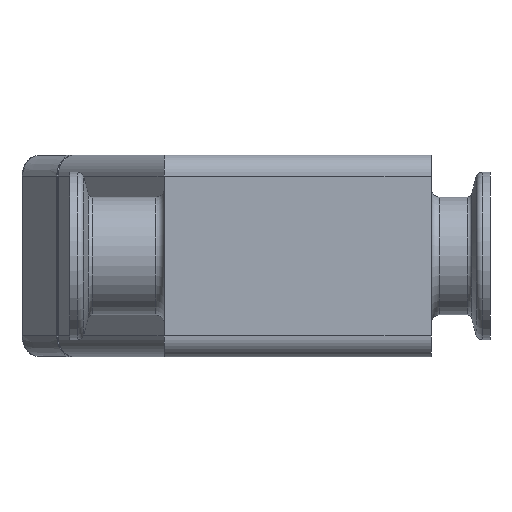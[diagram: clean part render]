
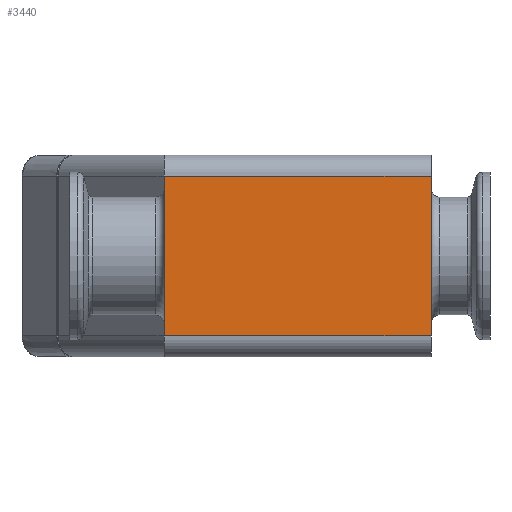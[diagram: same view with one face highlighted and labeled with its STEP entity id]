
A CAD part, front view. The second image highlights one B-rep face of the part: STEP entity #3440.
In plain terms, the highlighted planar face has unit normal (0, -1, 0) as drawn and (0, 0, -1) by its records, which use the part's own axes.
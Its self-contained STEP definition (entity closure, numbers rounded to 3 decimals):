
#1311=LINE('',#12423,#1837);
#1323=LINE('',#12461,#1849);
#1324=LINE('',#12467,#1850);
#1325=LINE('',#12468,#1851);
#1837=VECTOR('',#10082,1.);
#1849=VECTOR('',#10114,1.);
#1850=VECTOR('',#10123,1.);
#1851=VECTOR('',#10124,1.);
#2341=FACE_OUTER_BOUND('',#4476,.T.);
#3013=PLANE('',#8997);
#3440=ADVANCED_FACE('',(#2341),#3013,.F.);
#4476=EDGE_LOOP('',(#5277,#5278,#5279,#5280));
#5277=ORIENTED_EDGE('',*,*,#7656,.T.);
#5278=ORIENTED_EDGE('',*,*,#7660,.T.);
#5279=ORIENTED_EDGE('',*,*,#7638,.T.);
#5280=ORIENTED_EDGE('',*,*,#7661,.T.);
#6928=VERTEX_POINT('',#12424);
#6929=VERTEX_POINT('',#12425);
#6943=VERTEX_POINT('',#12460);
#6944=VERTEX_POINT('',#12462);
#7638=EDGE_CURVE('',#6928,#6929,#1311,.T.);
#7656=EDGE_CURVE('',#6944,#6943,#1323,.T.);
#7660=EDGE_CURVE('',#6943,#6928,#1324,.T.);
#7661=EDGE_CURVE('',#6929,#6944,#1325,.T.);
#8997=AXIS2_PLACEMENT_3D('',#12469,#10125,#10126);
#10082=DIRECTION('',(0.,-1.,0.));
#10114=DIRECTION('',(0.,1.,0.));
#10123=DIRECTION('',(1.,0.,0.));
#10124=DIRECTION('',(-1.,0.,0.));
#10125=DIRECTION('',(0.,0.,1.));
#10126=DIRECTION('',(1.,0.,0.));
#12423=CARTESIAN_POINT('',(77.5,24.,-20.5));
#12424=CARTESIAN_POINT('',(77.5,19.,-20.5));
#12425=CARTESIAN_POINT('',(77.5,-19.,-20.5));
#12460=CARTESIAN_POINT('',(14.,19.,-20.5));
#12461=CARTESIAN_POINT('',(14.,24.,-20.5));
#12462=CARTESIAN_POINT('',(14.,-19.,-20.5));
#12467=CARTESIAN_POINT('',(77.5,19.,-20.5));
#12468=CARTESIAN_POINT('',(100.,-19.,-20.5));
#12469=CARTESIAN_POINT('',(100.,24.,-20.5));
